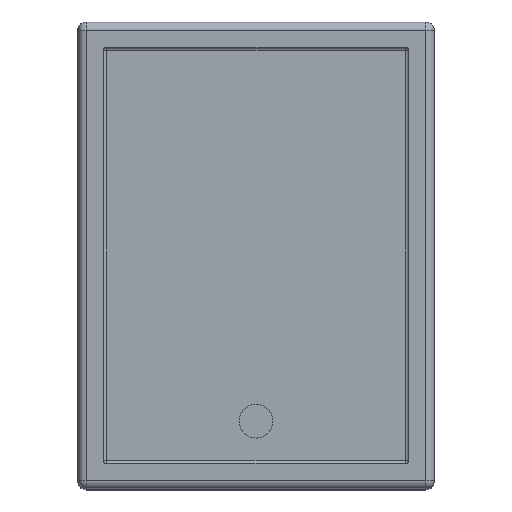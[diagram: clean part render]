
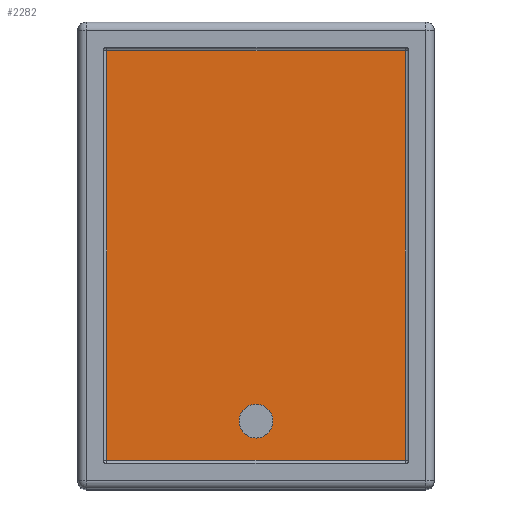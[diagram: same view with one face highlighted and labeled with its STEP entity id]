
A CAD part, top view. The second image highlights one B-rep face of the part: STEP entity #2282.
In plain terms, the highlighted planar face has unit normal (0, 0, 1).
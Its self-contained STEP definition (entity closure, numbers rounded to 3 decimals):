
#2282=ADVANCED_FACE('',(#4187,#4188),#3476,.F.);
#3476=PLANE('',#25447);
#4187=FACE_BOUND('',#4888,.T.);
#4188=FACE_BOUND('',#4889,.T.);
#4888=EDGE_LOOP('',(#13485,#13486,#13487,#13488));
#4889=EDGE_LOOP('',(#13489));
#6822=LINE('',#36281,#9458);
#6823=LINE('',#36284,#9459);
#6824=LINE('',#36286,#9460);
#6825=LINE('',#36288,#9461);
#9458=VECTOR('',#29248,1.);
#9459=VECTOR('',#29249,1.);
#9460=VECTOR('',#29250,1.);
#9461=VECTOR('',#29251,1.);
#13485=ORIENTED_EDGE('',*,*,#21620,.T.);
#13486=ORIENTED_EDGE('',*,*,#21621,.T.);
#13487=ORIENTED_EDGE('',*,*,#21622,.T.);
#13488=ORIENTED_EDGE('',*,*,#21623,.T.);
#13489=ORIENTED_EDGE('',*,*,#21624,.F.);
#18943=VERTEX_POINT('',#36282);
#18944=VERTEX_POINT('',#36283);
#18945=VERTEX_POINT('',#36285);
#18946=VERTEX_POINT('',#36287);
#18947=VERTEX_POINT('',#36290);
#21620=EDGE_CURVE('',#18943,#18944,#6822,.T.);
#21621=EDGE_CURVE('',#18944,#18945,#6823,.T.);
#21622=EDGE_CURVE('',#18945,#18946,#6824,.T.);
#21623=EDGE_CURVE('',#18946,#18943,#6825,.T.);
#21624=EDGE_CURVE('',#18947,#18947,#24185,.T.);
#24185=CIRCLE('',#25446,1.);
#25446=AXIS2_PLACEMENT_3D('',#36289,#29252,#29253);
#25447=AXIS2_PLACEMENT_3D('',#36291,#29254,#29255);
#29248=DIRECTION('',(1.,0.,0.));
#29249=DIRECTION('',(0.,1.,0.));
#29250=DIRECTION('',(-1.,0.,0.));
#29251=DIRECTION('',(0.,-1.,0.));
#29252=DIRECTION('',(0.,0.,1.));
#29253=DIRECTION('',(0.,-1.,0.));
#29254=DIRECTION('',(0.,0.,-1.));
#29255=DIRECTION('',(-1.,0.,0.));
#36281=CARTESIAN_POINT('',(9.05,-12.05,34.6));
#36282=CARTESIAN_POINT('',(-8.75,-12.05,34.6));
#36283=CARTESIAN_POINT('',(8.85,-12.05,34.6));
#36284=CARTESIAN_POINT('',(8.85,-12.25,34.6));
#36285=CARTESIAN_POINT('',(8.85,12.05,34.6));
#36286=CARTESIAN_POINT('',(9.05,12.05,34.6));
#36287=CARTESIAN_POINT('',(-8.75,12.05,34.6));
#36288=CARTESIAN_POINT('',(-8.75,-12.25,34.6));
#36289=CARTESIAN_POINT('',(0.05,-9.75,34.6));
#36290=CARTESIAN_POINT('',(0.05,-10.75,34.6));
#36291=CARTESIAN_POINT('',(9.05,-12.25,34.6));
